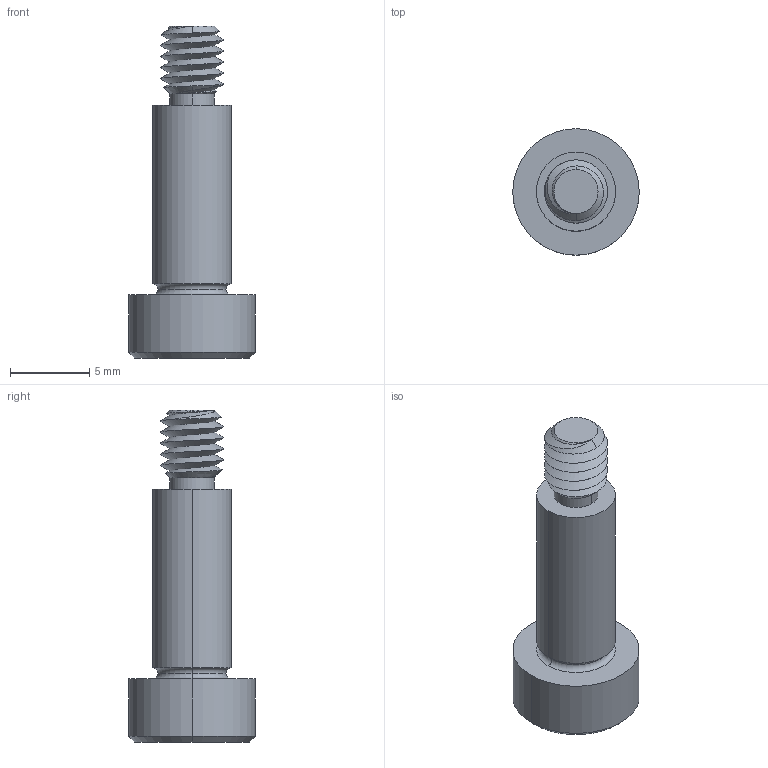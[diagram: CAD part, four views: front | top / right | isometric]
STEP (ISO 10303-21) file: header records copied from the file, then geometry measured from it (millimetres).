
FILE_DESCRIPTION (( 'STEP AP203' ), '1' );
FILE_NAME ('P0130.050-012-B2.step', '2021-11-09T21:13:49', ( '' ), ( '' ), 'SwSTEP 2.0', 'SolidWorks 2019', '' );
FILE_SCHEMA (( 'CONFIG_CONTROL_DESIGN' ));
Length unit declared in the file: millimetre
Products named in the file (1): P0130.050-012-B2
Bounding box: 8 x 8 x 21 mm (x, y, z)
Volume: 459.9 mm3; surface area: 504 mm2
Topology: 1 solids, 1 shells, 53 faces, 121 edges, 71 vertices
Faces by surface type: cylinder 16, plane 16, cone 15, torus 4, bspline 2
Entity records: 2151 total; most frequent: CARTESIAN_POINT 968, ORIENTED_EDGE 238, DIRECTION 226, EDGE_CURVE 119, AXIS2_PLACEMENT_3D 92, VERTEX_POINT 71, EDGE_LOOP 56, ADVANCED_FACE 53
